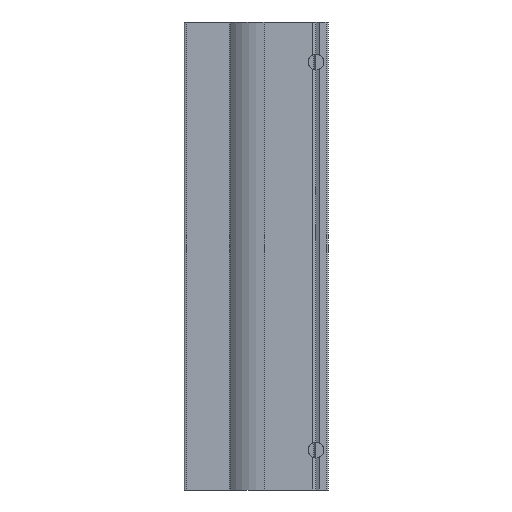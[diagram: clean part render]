
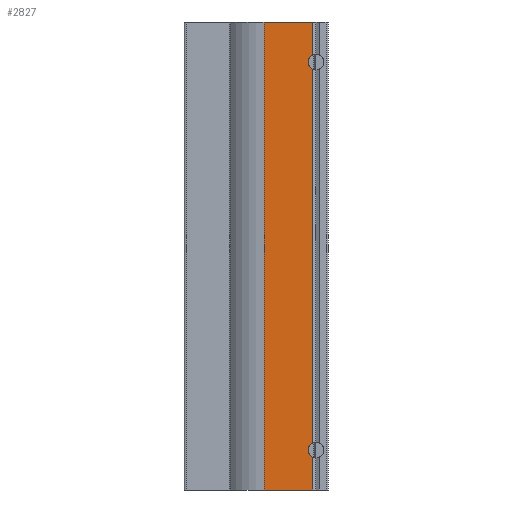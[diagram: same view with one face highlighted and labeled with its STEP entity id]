
A CAD part, left-side view. The second image highlights one B-rep face of the part: STEP entity #2827.
In plain terms, the highlighted planar face has unit normal (-1, 0, 0).
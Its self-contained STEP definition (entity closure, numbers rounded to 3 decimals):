
#48=LINE('',#4352,#240);
#49=LINE('',#4354,#241);
#50=LINE('',#4356,#242);
#51=LINE('',#4358,#243);
#52=LINE('',#4359,#244);
#53=LINE('',#4360,#245);
#240=VECTOR('',#3450,8.197);
#241=VECTOR('',#3451,12.134);
#242=VECTOR('',#3452,117.);
#243=VECTOR('',#3453,12.134);
#244=VECTOR('',#3454,8.197);
#245=VECTOR('',#3455,93.394);
#415=PLANE('',#3033);
#662=FACE_OUTER_BOUND('',#830,.T.);
#830=EDGE_LOOP('',(#2013,#2014,#2015,#2016,#2017,#2018,#2019,#2020));
#1089=CIRCLE('',#2995,2.);
#1096=CIRCLE('',#3012,2.);
#1245=VERTEX_POINT('',#4216);
#1249=VERTEX_POINT('',#4224);
#1261=VERTEX_POINT('',#4259);
#1265=VERTEX_POINT('',#4267);
#1291=VERTEX_POINT('',#4351);
#1292=VERTEX_POINT('',#4353);
#1293=VERTEX_POINT('',#4355);
#1294=VERTEX_POINT('',#4357);
#1542=EDGE_CURVE('',#1245,#1249,#1089,.T.);
#1558=EDGE_CURVE('',#1261,#1265,#1096,.T.);
#1595=EDGE_CURVE('',#1249,#1291,#48,.T.);
#1596=EDGE_CURVE('',#1291,#1292,#49,.T.);
#1597=EDGE_CURVE('',#1293,#1292,#50,.T.);
#1598=EDGE_CURVE('',#1293,#1294,#51,.T.);
#1599=EDGE_CURVE('',#1294,#1261,#52,.T.);
#1600=EDGE_CURVE('',#1265,#1245,#53,.T.);
#2013=ORIENTED_EDGE('',*,*,#1542,.T.);
#2014=ORIENTED_EDGE('',*,*,#1595,.T.);
#2015=ORIENTED_EDGE('',*,*,#1596,.T.);
#2016=ORIENTED_EDGE('',*,*,#1597,.F.);
#2017=ORIENTED_EDGE('',*,*,#1598,.T.);
#2018=ORIENTED_EDGE('',*,*,#1599,.T.);
#2019=ORIENTED_EDGE('',*,*,#1558,.T.);
#2020=ORIENTED_EDGE('',*,*,#1600,.T.);
#2827=ADVANCED_FACE('',(#662),#415,.T.);
#2995=AXIS2_PLACEMENT_3D('',#4226,#3347,#3348);
#3012=AXIS2_PLACEMENT_3D('',#4269,#3381,#3382);
#3033=AXIS2_PLACEMENT_3D('',#4350,#3448,#3449);
#3347=DIRECTION('center_axis',(1.,0.,0.));
#3348=DIRECTION('ref_axis',(0.,0.,1.));
#3381=DIRECTION('center_axis',(1.,0.,0.));
#3382=DIRECTION('ref_axis',(0.,0.,1.));
#3448=DIRECTION('center_axis',(-1.,0.,0.));
#3449=DIRECTION('ref_axis',(0.,0.,1.));
#3450=DIRECTION('',(0.,0.,1.));
#3451=DIRECTION('',(0.,1.,0.));
#3452=DIRECTION('',(0.,0.,1.));
#3453=DIRECTION('',(0.,-1.,0.));
#3454=DIRECTION('',(0.,0.,1.));
#3455=DIRECTION('',(0.,0.,1.));
#4216=CARTESIAN_POINT('',(-36.,3.866,46.697));
#4224=CARTESIAN_POINT('',(-36.,3.866,50.303));
#4226=CARTESIAN_POINT('Origin',(-36.,3.,48.5));
#4259=CARTESIAN_POINT('',(-36.,3.866,-50.303));
#4267=CARTESIAN_POINT('',(-36.,3.866,-46.697));
#4269=CARTESIAN_POINT('Origin',(-36.,3.,-48.5));
#4350=CARTESIAN_POINT('Origin',(-36.,3.866,0.));
#4351=CARTESIAN_POINT('',(-36.,3.866,58.5));
#4352=CARTESIAN_POINT('',(-36.,3.866,0.));
#4353=CARTESIAN_POINT('',(-36.,16.,58.5));
#4354=CARTESIAN_POINT('',(-36.,16.,58.5));
#4355=CARTESIAN_POINT('',(-36.,16.,-58.5));
#4356=CARTESIAN_POINT('',(-36.,16.,0.));
#4357=CARTESIAN_POINT('',(-36.,3.866,-58.5));
#4358=CARTESIAN_POINT('',(-36.,16.,-58.5));
#4359=CARTESIAN_POINT('',(-36.,3.866,0.));
#4360=CARTESIAN_POINT('',(-36.,3.866,0.));
